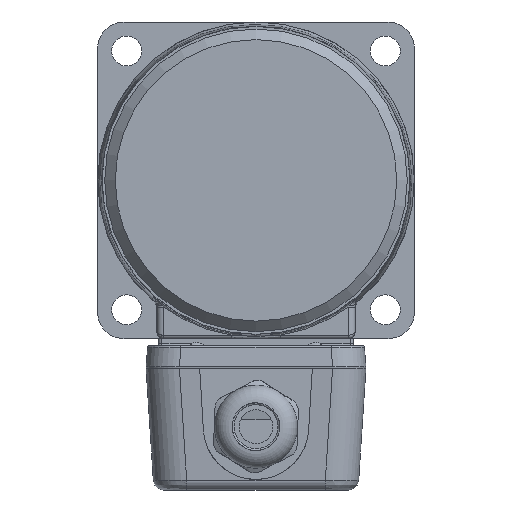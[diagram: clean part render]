
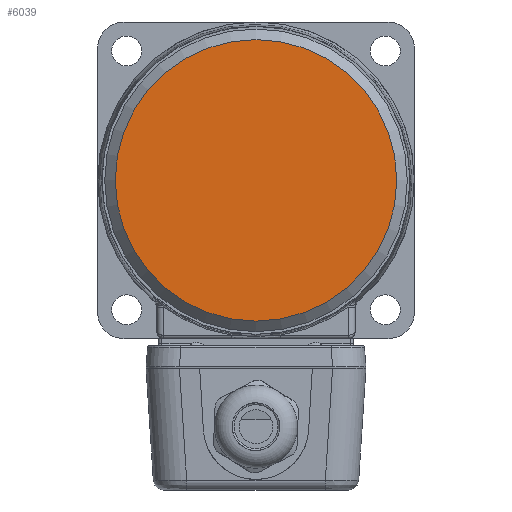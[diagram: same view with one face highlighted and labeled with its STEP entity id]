
A CAD part, left-side view. The second image highlights one B-rep face of the part: STEP entity #6039.
In plain terms, the highlighted planar face has unit normal (-1, 0, 0).
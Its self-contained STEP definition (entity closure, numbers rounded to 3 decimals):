
#444=CIRCLE('',#6416,40.);
#666=FACE_OUTER_BOUND('',#1031,.T.);
#1031=EDGE_LOOP('',(#3829));
#2390=VERTEX_POINT('',#8647);
#2961=EDGE_CURVE('',#2390,#2390,#444,.T.);
#3829=ORIENTED_EDGE('',*,*,#2961,.F.);
#5523=PLANE('',#6415);
#6039=ADVANCED_FACE('',(#666),#5523,.T.);
#6415=AXIS2_PLACEMENT_3D('',#8646,#7017,#7018);
#6416=AXIS2_PLACEMENT_3D('',#8648,#7019,#7020);
#7017=DIRECTION('center_axis',(-1.,0.,0.));
#7018=DIRECTION('ref_axis',(0.,0.,1.));
#7019=DIRECTION('center_axis',(1.,0.,0.));
#7020=DIRECTION('ref_axis',(0.,1.,0.));
#8646=CARTESIAN_POINT('Origin',(0.,20.,
0.));
#8647=CARTESIAN_POINT('',(0.,40.,0.));
#8648=CARTESIAN_POINT('Origin',(0.,0.,
0.));
